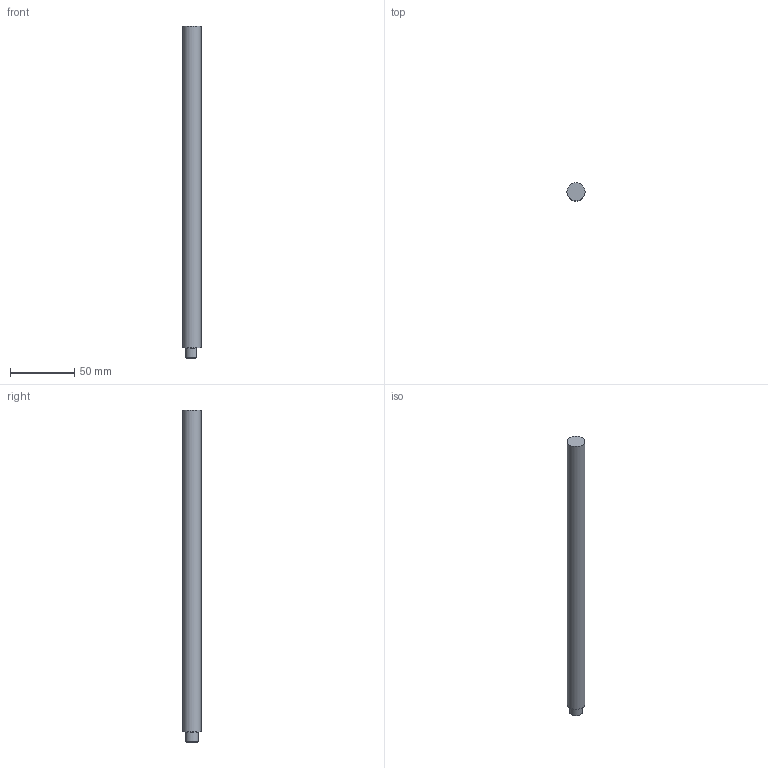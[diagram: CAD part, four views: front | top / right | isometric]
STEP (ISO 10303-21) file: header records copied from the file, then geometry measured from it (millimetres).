
FILE_DESCRIPTION (( 'STEP AP214' ), '1' );
FILE_NAME ('KKPHF Pin C_-_10-250.step', '2024-02-07T08:52:36', ( '' ), ( '' ), 'SwSTEP 2.0', 'SolidWorks 2020', '' );
FILE_SCHEMA (( 'AUTOMOTIVE_DESIGN' ));
Length unit declared in the file: millimetre
Products named in the file (1): KKPHF  Pin C_-_10-250
Bounding box: 14 x 14 x 257.9 mm (x, y, z)
Volume: 38866.4 mm3; surface area: 11696.7 mm2
Topology: 1 solids, 1 shells, 12 faces, 22 edges, 13 vertices
Faces by surface type: plane 5, cylinder 4, cone 2, torus 1
Full cylindrical faces by diameter (mm): 4.2 x1, 14 x1
Entity records: 323 total; most frequent: CARTESIAN_POINT 59, DIRECTION 48, ORIENTED_EDGE 36, AXIS2_PLACEMENT_3D 21, EDGE_CURVE 18, EDGE_LOOP 16, FACE_OUTER_BOUND 14, ADVANCED_FACE 12
